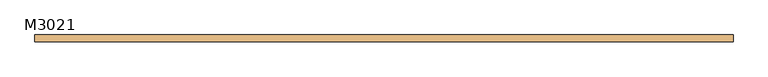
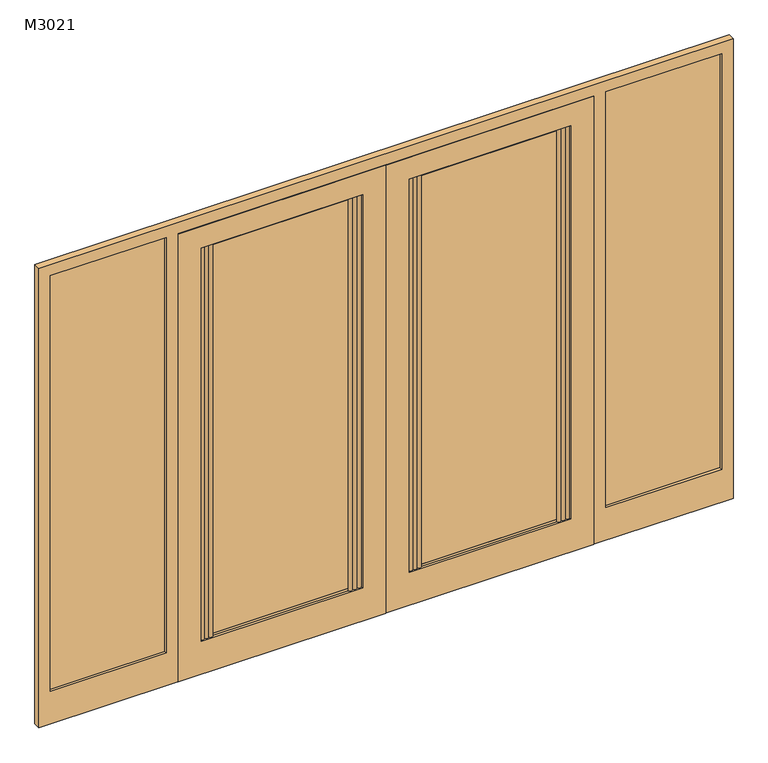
"""IFC4 building model written with IfcOpenShell, lengths in millimetres: door geometry, 双面嵌板连窗玻璃门 3 : M3021."""

from ifc_helpers import new_model, si_unit, frame, origin, place, context, project, spatial, polyline, circle_curve, outline, extrude, source, transform, mapped, element, save
from ifc_brep_helpers import plane_surface, cylinder_surface, advanced_brep


def m3021_a8b2207c(model_context):
    return source(origin(), model_context, "Body", "SolidModel", [
        advanced_brep(
        [(-798.0, 3.5, 1948.0), (-798.0, -3.5, 1948.0), (-779.265006, -3.5, 1948.0), (-760.530012, -3.5, 1948.0), (-741.795018, -3.5, 1948.0), (-157.204982, -3.5, 1948.0), (-138.469988, -3.5, 1948.0), (-119.734994, -3.5, 1948.0), (-101.0, -3.5, 1948.0), (-101.0, 3.5, 1948.0), (-119.734994, 3.5, 1948.0), (-138.469988, 3.5, 1948.0), (-157.204982, 3.5, 1948.0), (-741.795018, 3.5, 1948.0), (-760.530012, 3.5, 1948.0), (-779.265006, 3.5, 1948.0), (-798.0, 3.5, 150.0), (-779.265006, 3.5, 150.0), (-760.530012, 3.5, 150.0), (-741.795018, 3.5, 150.0), (-157.204982, 3.5, 150.0), (-138.469988, 3.5, 150.0), (-119.734994, 3.5, 150.0), (-101.0, 3.5, 150.0), (-101.0, -3.5, 150.0), (-119.734994, -3.5, 150.0), (-138.469988, -3.5, 150.0), (-157.204982, -3.5, 150.0), (-741.795018, -3.5, 150.0), (-760.530012, -3.5, 150.0), (-779.265006, -3.5, 150.0), (-798.0, -3.5, 150.0), (-798.0, 3.5, 1938.0), (-798.0, 3.5, 160.0), (-798.0, -3.5, 160.0), (-798.0, -3.5, 1938.0), (-779.265006, -3.5, 160.0), (-779.265006, -3.5, 1938.0), (-760.530012, -3.5, 160.0), (-760.530012, -3.5, 1938.0), (-741.795018, -3.5, 160.0), (-741.795018, 3.5, 160.0), (-760.530012, 3.5, 160.0), (-760.530012, 3.5, 1938.0), (-741.795018, 3.5, 1938.0), (-741.795018, -3.5, 1938.0), (-779.265006, 3.5, 160.0), (-779.265006, 3.5, 1938.0), (-101.0, 3.5, 1938.0), (-101.0, 3.5, 160.0), (-119.734994, 3.5, 160.0), (-119.734994, 3.5, 1938.0), (-138.469988, 3.5, 160.0), (-138.469988, 3.5, 1938.0), (-157.204982, -3.5, 1938.0), (-157.204982, 3.5, 1938.0), (-157.204982, 3.5, 160.0), (-157.204982, -3.5, 160.0), (-138.469988, -3.5, 160.0), (-138.469988, -3.5, 1938.0), (-119.734994, -3.5, 160.0), (-119.734994, -3.5, 1938.0), (-101.0, -3.5, 160.0), (-101.0, -3.5, 1938.0)],
        [
            (0, 1),
            (1, 2, circle_curve(frame((-788.632503, 0.0, 1948.0), z_axis=(0.0, 0.0, 1.0), x_axis=(1.0, 0.0, 0.0)), 10.0)),
            (2, 3, circle_curve(frame((-769.897509, 0.0, 1948.0), z_axis=(0.0, 0.0, 1.0), x_axis=(1.0, 0.0, 0.0)), 10.0)),
            (3, 4, circle_curve(frame((-751.162515, 0.0, 1948.0), z_axis=(0.0, 0.0, 1.0), x_axis=(1.0, 0.0, 0.0)), 10.0)),
            (4, 5),
            (5, 6, circle_curve(frame((-147.837485, 0.0, 1948.0), z_axis=(0.0, 0.0, 1.0), x_axis=(1.0, 0.0, 0.0)), 10.0)),
            (6, 7, circle_curve(frame((-129.102491, 0.0, 1948.0), z_axis=(0.0, 0.0, 1.0), x_axis=(1.0, 0.0, 0.0)), 10.0)),
            (7, 8, circle_curve(frame((-110.367497, 0.0, 1948.0), z_axis=(0.0, 0.0, 1.0), x_axis=(1.0, 0.0, 0.0)), 10.0)),
            (8, 9),
            (9, 10, circle_curve(frame((-110.367497, 0.0, 1948.0), z_axis=(0.0, 0.0, 1.0), x_axis=(1.0, 0.0, 0.0)), 10.0)),
            (10, 11, circle_curve(frame((-129.102491, 0.0, 1948.0), z_axis=(0.0, 0.0, 1.0), x_axis=(1.0, 0.0, 0.0)), 10.0)),
            (11, 12, circle_curve(frame((-147.837485, 0.0, 1948.0), z_axis=(0.0, 0.0, 1.0), x_axis=(1.0, 0.0, 0.0)), 10.0)),
            (12, 13),
            (13, 14, circle_curve(frame((-751.162515, 0.0, 1948.0), z_axis=(0.0, 0.0, 1.0), x_axis=(1.0, 0.0, 0.0)), 10.0)),
            (14, 15, circle_curve(frame((-769.897509, 0.0, 1948.0), z_axis=(0.0, 0.0, 1.0), x_axis=(1.0, 0.0, 0.0)), 10.0)),
            (15, 0, circle_curve(frame((-788.632503, 0.0, 1948.0), z_axis=(0.0, 0.0, 1.0), x_axis=(1.0, 0.0, 0.0)), 10.0)),
            (16, 17, circle_curve(frame((-788.632503, 0.0, 150.0), z_axis=(0.0, 0.0, -1.0), x_axis=(1.0, 0.0, 0.0)), 10.0)),
            (17, 18, circle_curve(frame((-769.897509, 0.0, 150.0), z_axis=(0.0, 0.0, -1.0), x_axis=(1.0, 0.0, 0.0)), 10.0)),
            (18, 19, circle_curve(frame((-751.162515, 0.0, 150.0), z_axis=(0.0, 0.0, -1.0), x_axis=(1.0, 0.0, 0.0)), 10.0)),
            (19, 20),
            (20, 21, circle_curve(frame((-147.837485, 0.0, 150.0), z_axis=(0.0, 0.0, -1.0), x_axis=(1.0, 0.0, 0.0)), 10.0)),
            (21, 22, circle_curve(frame((-129.102491, 0.0, 150.0), z_axis=(0.0, 0.0, -1.0), x_axis=(1.0, 0.0, 0.0)), 10.0)),
            (22, 23, circle_curve(frame((-110.367497, 0.0, 150.0), z_axis=(0.0, 0.0, -1.0), x_axis=(1.0, 0.0, 0.0)), 10.0)),
            (23, 24),
            (24, 25, circle_curve(frame((-110.367497, 0.0, 150.0), z_axis=(0.0, 0.0, -1.0), x_axis=(1.0, 0.0, 0.0)), 10.0)),
            (25, 26, circle_curve(frame((-129.102491, 0.0, 150.0), z_axis=(0.0, 0.0, -1.0), x_axis=(1.0, 0.0, 0.0)), 10.0)),
            (26, 27, circle_curve(frame((-147.837485, 0.0, 150.0), z_axis=(0.0, 0.0, -1.0), x_axis=(1.0, 0.0, 0.0)), 10.0)),
            (27, 28),
            (28, 29, circle_curve(frame((-751.162515, 0.0, 150.0), z_axis=(0.0, 0.0, -1.0), x_axis=(1.0, 0.0, 0.0)), 10.0)),
            (29, 30, circle_curve(frame((-769.897509, 0.0, 150.0), z_axis=(0.0, 0.0, -1.0), x_axis=(1.0, 0.0, 0.0)), 10.0)),
            (30, 31, circle_curve(frame((-788.632503, 0.0, 150.0), z_axis=(0.0, 0.0, -1.0), x_axis=(1.0, 0.0, 0.0)), 10.0)),
            (31, 16),
            (0, 32),
            (32, 33),
            (33, 16),
            (31, 34),
            (34, 35),
            (35, 1),
            (30, 36),
            (36, 37),
            (37, 2),
            (29, 38),
            (38, 39),
            (39, 3),
            (28, 40),
            (40, 41, circle_curve(frame((-751.162515, 0.0, 160.0), z_axis=(0.0, 0.0, 1.0), x_axis=(1.0, 0.0, 0.0)), 10.0)),
            (41, 19),
            (18, 42),
            (42, 43),
            (43, 14),
            (13, 44),
            (44, 45, circle_curve(frame((-751.162515, 0.0, 1938.0), z_axis=(0.0, 0.0, -1.0), x_axis=(1.0, 0.0, 0.0)), 10.0)),
            (45, 4),
            (17, 46),
            (46, 47),
            (47, 15),
            (9, 48),
            (48, 49),
            (49, 23),
            (22, 50),
            (50, 51),
            (51, 10),
            (21, 52),
            (52, 53),
            (53, 11),
            (5, 54),
            (54, 55, circle_curve(frame((-147.837485, 0.0, 1938.0), z_axis=(0.0, 0.0, -1.0), x_axis=(1.0, 0.0, 0.0)), 10.0)),
            (55, 12),
            (20, 56),
            (56, 57, circle_curve(frame((-147.837485, 0.0, 160.0), z_axis=(0.0, 0.0, 1.0), x_axis=(1.0, 0.0, 0.0)), 10.0)),
            (57, 27),
            (26, 58),
            (58, 59),
            (59, 6),
            (25, 60),
            (60, 61),
            (61, 7),
            (24, 62),
            (62, 63),
            (63, 8),
            (45, 54),
            (57, 40),
            (55, 44),
            (41, 56),
        ],
        [
            plane_surface(frame((-798.0, 3.5, 1948.0), z_axis=(0.0, 0.0, 1.0), x_axis=(0.0, -1.0, 0.0))),
            plane_surface(frame((-798.0, 3.5, 150.0), z_axis=(0.0, 0.0, -1.0), x_axis=(0.0, 1.0, 0.0))),
            plane_surface(frame((-798.0, 3.5, 1948.0), z_axis=(-1.0, 0.0, 0.0), x_axis=(0.0, 0.0, -1.0))),
            cylinder_surface(frame((-788.632503, 0.0, 150.0), z_axis=(0.0, 0.0, 1.0), x_axis=(1.0, 0.0, 0.0)), 10.0),
            cylinder_surface(frame((-769.897509, 0.0, 150.0), z_axis=(0.0, 0.0, 1.0), x_axis=(1.0, 0.0, 0.0)), 10.0),
            cylinder_surface(frame((-751.162515, 0.0, 150.0), z_axis=(0.0, 0.0, 1.0), x_axis=(1.0, 0.0, 0.0)), 10.0),
            cylinder_surface(frame((-110.367497, 0.0, 0.0), z_axis=(0.0, 0.0, 1.0), x_axis=(1.0, 0.0, 0.0)), 10.0),
            cylinder_surface(frame((-129.102491, 0.0, 0.0), z_axis=(0.0, 0.0, 1.0), x_axis=(1.0, 0.0, 0.0)), 10.0),
            cylinder_surface(frame((-147.837485, 0.0, 0.0), z_axis=(0.0, 0.0, 1.0), x_axis=(1.0, 0.0, 0.0)), 10.0),
            plane_surface(frame((-101.0, -3.5, 1948.0), z_axis=(1.0, 0.0, 0.0), x_axis=(0.0, 0.0, -1.0))),
            plane_surface(frame((-798.0, -3.5, 1948.0), z_axis=(0.0, -1.0, 0.0), x_axis=(-1.0, 0.0, 0.0))),
            plane_surface(frame((-798.0, 3.5, 1948.0), z_axis=(0.0, 1.0, 0.0), x_axis=(1.0, 0.0, 0.0))),
            plane_surface(frame((-798.0, -3.5, 1938.0), z_axis=(0.0, 0.0, -1.0), x_axis=(0.0, 1.0, 0.0))),
            plane_surface(frame((-101.0, -3.5, 160.0), z_axis=(0.0, 0.0, 1.0), x_axis=(0.0, 1.0, 0.0))),
        ],
        [
            (0, [[1, 2, 3, 4, 5, 6, 7, 8, 9, 10, 11, 12, 13, 14, 15, 16]]),
            (1, [[17, 18, 19, 20, 21, 22, 23, 24, 25, 26, 27, 28, 29, 30, 31, 32]]),
            (2, [[-1, 33, 34, 35, -32, 36, 37, 38]]),
            (3, [[-2, -38, -37, -36, -31, 39, 40, 41]]),
            (4, [[-3, -41, -40, -39, -30, 42, 43, 44]]),
            (5, [[-4, -44, -43, -42, -29, 45, 46, 47, -19, 48, 49, 50, -14, 51, 52, 53]]),
            (4, [[-15, -50, -49, -48, -18, 54, 55, 56]]),
            (3, [[-16, -56, -55, -54, -17, -35, -34, -33]]),
            (6, [[-10, 57, 58, 59, -23, 60, 61, 62]]),
            (7, [[-11, -62, -61, -60, -22, 63, 64, 65]]),
            (8, [[-6, 66, 67, 68, -12, -65, -64, -63, -21, 69, 70, 71, -27, 72, 73, 74]]),
            (7, [[-7, -74, -73, -72, -26, 75, 76, 77]]),
            (6, [[-8, -77, -76, -75, -25, 78, 79, 80]]),
            (9, [[-9, -80, -79, -78, -24, -59, -58, -57]]),
            (10, [[-5, -53, 81, -66]]),
            (10, [[-28, -71, 82, -45]]),
            (11, [[-13, -68, 83, -51]]),
            (11, [[-20, -47, 84, -69]]),
            (12, [[-81, -52, -83, -67]]),
            (13, [[-82, -70, -84, -46]]),
        ],
    ),
        advanced_brep(
        [(103.0, -3.5, 1948.0), (121.734994, -3.5, 1948.0), (140.469988, -3.5, 1948.0), (159.204982, -3.5, 1948.0), (743.795018, -3.5, 1948.0), (762.530012, -3.5, 1948.0), (781.265006, -3.5, 1948.0), (800.0, -3.5, 1948.0), (800.0, 3.5, 1948.0), (781.265006, 3.5, 1948.0), (762.530012, 3.5, 1948.0), (743.795018, 3.5, 1948.0), (159.204982, 3.5, 1948.0), (140.469988, 3.5, 1948.0), (121.734994, 3.5, 1948.0), (103.0, 3.5, 1948.0), (101.0, 3.5, 1948.0), (101.0, -3.5, 1948.0), (103.0, 3.5, 150.0), (121.734994, 3.5, 150.0), (140.469988, 3.5, 150.0), (159.204982, 3.5, 150.0), (743.795018, 3.5, 150.0), (762.530012, 3.5, 150.0), (781.265006, 3.5, 150.0), (800.0, 3.5, 150.0), (800.0, -3.5, 150.0), (781.265006, -3.5, 150.0), (762.530012, -3.5, 150.0), (743.795018, -3.5, 150.0), (159.204982, -3.5, 150.0), (140.469988, -3.5, 150.0), (121.734994, -3.5, 150.0), (103.0, -3.5, 150.0), (101.0, -3.5, 150.0), (101.0, 3.5, 150.0), (781.265006, 3.5, 160.0), (781.265006, 3.5, 1938.0), (762.530012, 3.5, 160.0), (762.530012, 3.5, 1938.0), (743.795018, -3.5, 1938.0), (743.795018, 3.5, 1938.0), (743.795018, 3.5, 160.0), (743.795018, -3.5, 160.0), (762.530012, -3.5, 160.0), (762.530012, -3.5, 1938.0), (781.265006, -3.5, 160.0), (781.265006, -3.5, 1938.0), (103.0, 3.5, 1938.0), (103.0, 3.5, 160.0), (103.0, -3.5, 160.0), (103.0, -3.5, 1938.0), (121.734994, -3.5, 160.0), (121.734994, -3.5, 1938.0), (140.469988, -3.5, 160.0), (140.469988, -3.5, 1938.0), (159.204982, -3.5, 160.0), (159.204982, 3.5, 160.0), (140.469988, 3.5, 160.0), (140.469988, 3.5, 1938.0), (159.204982, 3.5, 1938.0), (159.204982, -3.5, 1938.0), (121.734994, 3.5, 160.0), (121.734994, 3.5, 1938.0), (101.0, -3.5, 1938.0), (101.0, -3.5, 160.0), (101.0, 3.5, 1938.0), (101.0, 3.5, 160.0)],
        [
            (0, 1, circle_curve(frame((112.367497, 0.0, 1948.0), z_axis=(0.0, 0.0, 1.0), x_axis=(1.0, 0.0, 0.0)), 10.0)),
            (1, 2, circle_curve(frame((131.102491, 0.0, 1948.0), z_axis=(0.0, 0.0, 1.0), x_axis=(1.0, 0.0, 0.0)), 10.0)),
            (2, 3, circle_curve(frame((149.837485, 0.0, 1948.0), z_axis=(0.0, 0.0, 1.0), x_axis=(1.0, 0.0, 0.0)), 10.0)),
            (3, 4),
            (4, 5, circle_curve(frame((753.162515, 0.0, 1948.0), z_axis=(0.0, 0.0, 1.0), x_axis=(1.0, 0.0, 0.0)), 10.0)),
            (5, 6, circle_curve(frame((771.897509, 0.0, 1948.0), z_axis=(0.0, 0.0, 1.0), x_axis=(1.0, 0.0, 0.0)), 10.0)),
            (6, 7, circle_curve(frame((790.632503, 0.0, 1948.0), z_axis=(0.0, 0.0, 1.0), x_axis=(1.0, 0.0, 0.0)), 10.0)),
            (7, 8),
            (8, 9, circle_curve(frame((790.632503, 0.0, 1948.0), z_axis=(0.0, 0.0, 1.0), x_axis=(1.0, 0.0, 0.0)), 10.0)),
            (9, 10, circle_curve(frame((771.897509, 0.0, 1948.0), z_axis=(0.0, 0.0, 1.0), x_axis=(1.0, 0.0, 0.0)), 10.0)),
            (10, 11, circle_curve(frame((753.162515, 0.0, 1948.0), z_axis=(0.0, 0.0, 1.0), x_axis=(1.0, 0.0, 0.0)), 10.0)),
            (11, 12),
            (12, 13, circle_curve(frame((149.837485, 0.0, 1948.0), z_axis=(0.0, 0.0, 1.0), x_axis=(1.0, 0.0, 0.0)), 10.0)),
            (13, 14, circle_curve(frame((131.102491, 0.0, 1948.0), z_axis=(0.0, 0.0, 1.0), x_axis=(1.0, 0.0, 0.0)), 10.0)),
            (14, 15, circle_curve(frame((112.367497, 0.0, 1948.0), z_axis=(0.0, 0.0, 1.0), x_axis=(1.0, 0.0, 0.0)), 10.0)),
            (15, 16),
            (16, 17),
            (17, 0),
            (18, 19, circle_curve(frame((112.367497, 0.0, 150.0), z_axis=(0.0, 0.0, -1.0), x_axis=(1.0, 0.0, 0.0)), 10.0)),
            (19, 20, circle_curve(frame((131.102491, 0.0, 150.0), z_axis=(0.0, 0.0, -1.0), x_axis=(1.0, 0.0, 0.0)), 10.0)),
            (20, 21, circle_curve(frame((149.837485, 0.0, 150.0), z_axis=(0.0, 0.0, -1.0), x_axis=(1.0, 0.0, 0.0)), 10.0)),
            (21, 22),
            (22, 23, circle_curve(frame((753.162515, 0.0, 150.0), z_axis=(0.0, 0.0, -1.0), x_axis=(1.0, 0.0, 0.0)), 10.0)),
            (23, 24, circle_curve(frame((771.897509, 0.0, 150.0), z_axis=(0.0, 0.0, -1.0), x_axis=(1.0, 0.0, 0.0)), 10.0)),
            (24, 25, circle_curve(frame((790.632503, 0.0, 150.0), z_axis=(0.0, 0.0, -1.0), x_axis=(1.0, 0.0, 0.0)), 10.0)),
            (25, 26),
            (26, 27, circle_curve(frame((790.632503, 0.0, 150.0), z_axis=(0.0, 0.0, -1.0), x_axis=(1.0, 0.0, 0.0)), 10.0)),
            (27, 28, circle_curve(frame((771.897509, 0.0, 150.0), z_axis=(0.0, 0.0, -1.0), x_axis=(1.0, 0.0, 0.0)), 10.0)),
            (28, 29, circle_curve(frame((753.162515, 0.0, 150.0), z_axis=(0.0, 0.0, -1.0), x_axis=(1.0, 0.0, 0.0)), 10.0)),
            (29, 30),
            (30, 31, circle_curve(frame((149.837485, 0.0, 150.0), z_axis=(0.0, 0.0, -1.0), x_axis=(1.0, 0.0, 0.0)), 10.0)),
            (31, 32, circle_curve(frame((131.102491, 0.0, 150.0), z_axis=(0.0, 0.0, -1.0), x_axis=(1.0, 0.0, 0.0)), 10.0)),
            (32, 33, circle_curve(frame((112.367497, 0.0, 150.0), z_axis=(0.0, 0.0, -1.0), x_axis=(1.0, 0.0, 0.0)), 10.0)),
            (33, 34),
            (34, 35),
            (35, 18),
            (8, 25),
            (24, 36),
            (36, 37),
            (37, 9),
            (23, 38),
            (38, 39),
            (39, 10),
            (4, 40),
            (40, 41, circle_curve(frame((753.162515, 0.0, 1938.0), z_axis=(0.0, 0.0, -1.0), x_axis=(1.0, 0.0, 0.0)), 10.0)),
            (41, 11),
            (22, 42),
            (42, 43, circle_curve(frame((753.162515, 0.0, 160.0), z_axis=(0.0, 0.0, 1.0), x_axis=(1.0, 0.0, 0.0)), 10.0)),
            (43, 29),
            (28, 44),
            (44, 45),
            (45, 5),
            (27, 46),
            (46, 47),
            (47, 6),
            (26, 7),
            (48, 49),
            (49, 50),
            (50, 51),
            (51, 48),
            (0, 51),
            (50, 33),
            (32, 52),
            (52, 53),
            (53, 1),
            (31, 54),
            (54, 55),
            (55, 2),
            (30, 56),
            (56, 57, circle_curve(frame((149.837485, 0.0, 160.0), z_axis=(0.0, 0.0, 1.0), x_axis=(1.0, 0.0, 0.0)), 10.0)),
            (57, 21),
            (20, 58),
            (58, 59),
            (59, 13),
            (12, 60),
            (60, 61, circle_curve(frame((149.837485, 0.0, 1938.0), z_axis=(0.0, 0.0, -1.0), x_axis=(1.0, 0.0, 0.0)), 10.0)),
            (61, 3),
            (19, 62),
            (62, 63),
            (63, 14),
            (18, 49),
            (48, 15),
            (61, 40),
            (43, 56),
            (17, 64),
            (64, 51),
            (65, 34),
            (50, 65),
            (41, 60),
            (57, 42),
            (66, 16),
            (48, 66),
            (35, 67),
            (67, 49),
            (66, 64),
            (65, 67),
        ],
        [
            plane_surface(frame((-798.0, 3.5, 1948.0), z_axis=(0.0, 0.0, 1.0), x_axis=(0.0, -1.0, 0.0))),
            plane_surface(frame((-798.0, 3.5, 150.0), z_axis=(0.0, 0.0, -1.0), x_axis=(0.0, 1.0, 0.0))),
            cylinder_surface(frame((790.632503, 0.0, 0.0), z_axis=(0.0, 0.0, 1.0), x_axis=(1.0, 0.0, 0.0)), 10.0),
            cylinder_surface(frame((771.897509, 0.0, 0.0), z_axis=(0.0, 0.0, 1.0), x_axis=(1.0, 0.0, 0.0)), 10.0),
            cylinder_surface(frame((753.162515, 0.0, 0.0), z_axis=(0.0, 0.0, 1.0), x_axis=(1.0, 0.0, 0.0)), 10.0),
            plane_surface(frame((800.0, -3.5, 1948.0), z_axis=(1.0, 0.0, 0.0), x_axis=(0.0, 0.0, -1.0))),
            plane_surface(frame((103.0, 3.5, 1948.0), z_axis=(-1.0, 0.0, 0.0), x_axis=(0.0, 0.0, -1.0))),
            cylinder_surface(frame((112.367497, 0.0, 0.0), z_axis=(0.0, 0.0, 1.0), x_axis=(1.0, 0.0, 0.0)), 10.0),
            cylinder_surface(frame((131.102491, 0.0, 0.0), z_axis=(0.0, 0.0, 1.0), x_axis=(1.0, 0.0, 0.0)), 10.0),
            cylinder_surface(frame((149.837485, 0.0, 0.0), z_axis=(0.0, 0.0, 1.0), x_axis=(1.0, 0.0, 0.0)), 10.0),
            plane_surface(frame((-798.0, -3.5, 1948.0), z_axis=(0.0, -1.0, 0.0), x_axis=(-1.0, 0.0, 0.0))),
            plane_surface(frame((-798.0, 3.5, 1948.0), z_axis=(0.0, 1.0, 0.0), x_axis=(1.0, 0.0, 0.0))),
            plane_surface(frame((101.0, -3.5, 1948.0), z_axis=(-1.0, 0.0, 0.0), x_axis=(0.0, 1.0, 0.0))),
            plane_surface(frame((101.0, -3.5, 1938.0), z_axis=(0.0, 0.0, -1.0), x_axis=(0.0, 1.0, 0.0))),
            plane_surface(frame((101.0, -3.5, 160.0), z_axis=(-1.0, 0.0, 0.0), x_axis=(0.0, 1.0, 0.0))),
            plane_surface(frame((798.0, -3.5, 160.0), z_axis=(0.0, 0.0, 1.0), x_axis=(0.0, 1.0, 0.0))),
        ],
        [
            (0, [[1, 2, 3, 4, 5, 6, 7, 8, 9, 10, 11, 12, 13, 14, 15, 16, 17, 18]]),
            (1, [[19, 20, 21, 22, 23, 24, 25, 26, 27, 28, 29, 30, 31, 32, 33, 34, 35, 36]]),
            (2, [[-9, 37, -25, 38, 39, 40]]),
            (3, [[-10, -40, -39, -38, -24, 41, 42, 43]]),
            (4, [[-5, 44, 45, 46, -11, -43, -42, -41, -23, 47, 48, 49, -29, 50, 51, 52]]),
            (3, [[-6, -52, -51, -50, -28, 53, 54, 55]]),
            (2, [[-7, -55, -54, -53, -27, 56]]),
            (5, [[-8, -56, -26, -37]]),
            (6, [[57, 58, 59, 60]]),
            (7, [[-1, 61, -59, 62, -33, 63, 64, 65]]),
            (8, [[-2, -65, -64, -63, -32, 66, 67, 68]]),
            (9, [[-3, -68, -67, -66, -31, 69, 70, 71, -21, 72, 73, 74, -13, 75, 76, 77]]),
            (8, [[-14, -74, -73, -72, -20, 78, 79, 80]]),
            (7, [[-15, -80, -79, -78, -19, 81, -57, 82]]),
            (10, [[-4, -77, 83, -44]]),
            (10, [[-30, -49, 84, -69]]),
            (10, [[85, 86, -61, -18]]),
            (10, [[87, -34, -62, 88]]),
            (11, [[-12, -46, 89, -75]]),
            (11, [[-22, -71, 90, -47]]),
            (11, [[91, -16, -82, 92]]),
            (11, [[93, 94, -81, -36]]),
            (12, [[-85, -17, -91, 95]]),
            (13, [[-83, -76, -89, -45]]),
            (13, [[-95, -92, -60, -86]]),
            (14, [[-87, 96, -93, -35]]),
            (15, [[-84, -48, -90, -70]]),
            (15, [[-96, -88, -58, -94]]),
        ],
    ),
        extrude(outline(polyline([(0.0, -1.0), (2048.0, -1.0), (2048.0, -898.0), (0.0, -898.0), (0.0, -1.0)]), holes=[polyline([(150.0, -101.0), (150.0, -798.0), (1948.0, -798.0), (1948.0, -101.0), (150.0, -101.0)])]), frame((0.0, -15.0, 0.0), z_axis=(0.0, 1.0, 0.0), x_axis=(0.0, 0.0, 1.0)), (0.0, 0.0, 1.0), 30.0),
        extrude(outline(polyline([(0.0, 1.0), (0.0, 898.0), (2048.0, 898.0), (2048.0, 1.0), (0.0, 1.0)]), holes=[polyline([(150.0, 101.0), (1948.0, 101.0), (1948.0, 798.0), (150.0, 798.0), (150.0, 101.0)])]), frame((0.0, -15.0, 0.0), z_axis=(0.0, 1.0, 0.0), x_axis=(0.0, 0.0, 1.0)), (0.0, 0.0, 1.0), 30.0),
        extrude(outline(polyline([(-950.0, -3.0), (-1450.0, -3.0), (-1450.0, 3.0), (-950.0, 3.0), (-950.0, -3.0)])), frame((0.0, 0.0, 150.0), z_axis=(0.0, 0.0, 1.0), x_axis=(1.0, 0.0, 0.0)), (0.0, 0.0, 1.0), 1900.0),
        extrude(outline(polyline([(1450.0, -3.0), (950.0, -3.0), (950.0, 3.0), (1450.0, 3.0), (1450.0, -3.0)])), frame((0.0, 0.0, 150.0), z_axis=(0.0, 0.0, 1.0), x_axis=(1.0, 0.0, 0.0)), (0.0, 0.0, 1.0), 1900.0),
        extrude(outline(polyline([(-101.0, -3.0), (-798.0, -3.0), (-798.0, 3.0), (-101.0, 3.0), (-101.0, -3.0)])), frame((0.0, 0.0, 150.0), z_axis=(0.0, 0.0, 1.0), x_axis=(1.0, 0.0, 0.0)), (0.0, 0.0, 1.0), 1798.0),
        extrude(outline(polyline([(798.0, -3.0), (101.0, -3.0), (101.0, 3.0), (798.0, 3.0), (798.0, -3.0)])), frame((0.0, 0.0, 150.0), z_axis=(0.0, 0.0, 1.0), x_axis=(1.0, 0.0, 0.0)), (0.0, 0.0, 1.0), 1798.0),
        extrude(outline(polyline([(2100.0, -1500.0), (0.0, -1500.0), (0.0, -900.0), (2050.0, -900.0), (2050.0, 900.0), (0.0, 900.0), (0.0, 1500.0), (2100.0, 1500.0), (2100.0, -1500.0)]), holes=[polyline([(2050.0, -950.0), (150.0, -950.0), (150.0, -1450.0), (2050.0, -1450.0), (2050.0, -950.0)]), polyline([(2050.0, 950.0), (2050.0, 1450.0), (150.0, 1450.0), (150.0, 950.0), (2050.0, 950.0)])]), frame((0.0, -15.0, 0.0), z_axis=(0.0, 1.0, 0.0), x_axis=(0.0, 0.0, 1.0)), (0.0, 0.0, 1.0), 30.0),
    ])


if __name__ == "__main__":
    model = new_model("IFC4")
    model_context = context("Model", 3, world=origin())
    ifc_project = project(units=[si_unit("LENGTHUNIT", "METRE", prefix="MILLI")], contexts=[model_context])
    site = spatial("IfcSite", under=ifc_project)
    building = spatial("IfcBuilding", under=site)
    placement = place(None, origin())
    m3021_shape = m3021_a8b2207c(model_context)
    element("IfcDoor", 1, ObjectType="双面嵌板连窗玻璃门 3 : M3021", at=placement, inside=building, context=model_context, shape_type="MappedRepresentation", body=[
        mapped(m3021_shape, transform((0.0, 0.0, 0.0), x_axis=(1.0, 0.0, 0.0), y_axis=(0.0, 1.0, 0.0), z_axis=(0.0, 0.0, 1.0))),
    ])
    save(model, "model.ifc")
